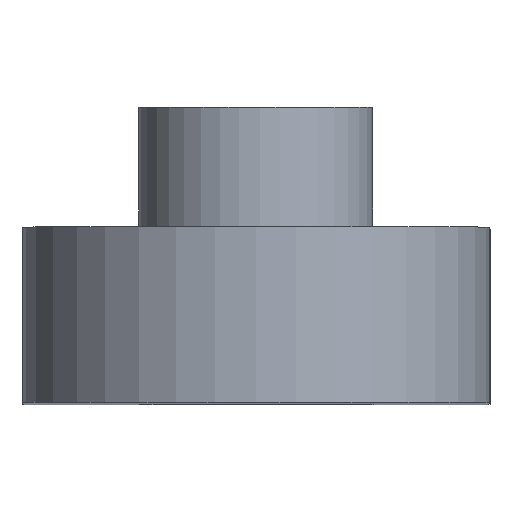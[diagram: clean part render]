
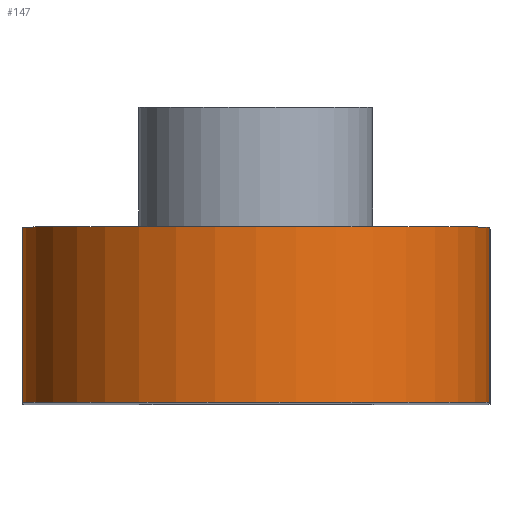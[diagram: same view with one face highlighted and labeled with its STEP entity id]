
A CAD part, top view. The second image highlights one B-rep face of the part: STEP entity #147.
In plain terms, the highlighted cylindrical face has radius 40 mm (diameter 80 mm), a partial arc.
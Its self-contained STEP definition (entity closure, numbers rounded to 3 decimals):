
#17=CYLINDRICAL_SURFACE('',#176,40.);
#27=FACE_OUTER_BOUND('',#38,.T.);
#38=EDGE_LOOP('',(#123,#124,#125,#126));
#46=LINE('',#248,#56);
#51=LINE('',#259,#61);
#56=VECTOR('',#203,10.);
#61=VECTOR('',#214,10.);
#63=CIRCLE('',#166,40.);
#69=CIRCLE('',#177,40.);
#71=VERTEX_POINT('',#230);
#72=VERTEX_POINT('',#231);
#78=VERTEX_POINT('',#247);
#81=VERTEX_POINT('',#257);
#83=EDGE_CURVE('',#71,#72,#63,.T.);
#91=EDGE_CURVE('',#71,#78,#46,.T.);
#97=EDGE_CURVE('',#72,#81,#51,.T.);
#98=EDGE_CURVE('',#78,#81,#69,.T.);
#123=ORIENTED_EDGE('',*,*,#83,.T.);
#124=ORIENTED_EDGE('',*,*,#97,.T.);
#125=ORIENTED_EDGE('',*,*,#98,.F.);
#126=ORIENTED_EDGE('',*,*,#91,.F.);
#147=ADVANCED_FACE('',(#27),#17,.T.);
#166=AXIS2_PLACEMENT_3D('',#232,#186,#187);
#176=AXIS2_PLACEMENT_3D('',#260,#215,#216);
#177=AXIS2_PLACEMENT_3D('',#261,#217,#218);
#186=DIRECTION('center_axis',(0.,-1.,0.));
#187=DIRECTION('ref_axis',(1.,0.,0.));
#203=DIRECTION('',(0.,-1.,0.));
#214=DIRECTION('',(0.,-1.,0.));
#215=DIRECTION('center_axis',(0.,-1.,0.));
#216=DIRECTION('ref_axis',(1.,0.,0.));
#217=DIRECTION('center_axis',(0.,-1.,0.));
#218=DIRECTION('ref_axis',(1.,0.,0.));
#230=CARTESIAN_POINT('',(165.724,255.53,200.017));
#231=CARTESIAN_POINT('',(85.724,255.53,199.983));
#232=CARTESIAN_POINT('Origin',(125.724,255.53,200.));
#247=CARTESIAN_POINT('',(165.724,225.53,200.017));
#248=CARTESIAN_POINT('',(165.724,255.53,200.017));
#257=CARTESIAN_POINT('',(85.724,225.53,199.983));
#259=CARTESIAN_POINT('',(85.724,255.53,199.983));
#260=CARTESIAN_POINT('Origin',(125.724,255.53,200.));
#261=CARTESIAN_POINT('Origin',(125.724,225.53,200.));
